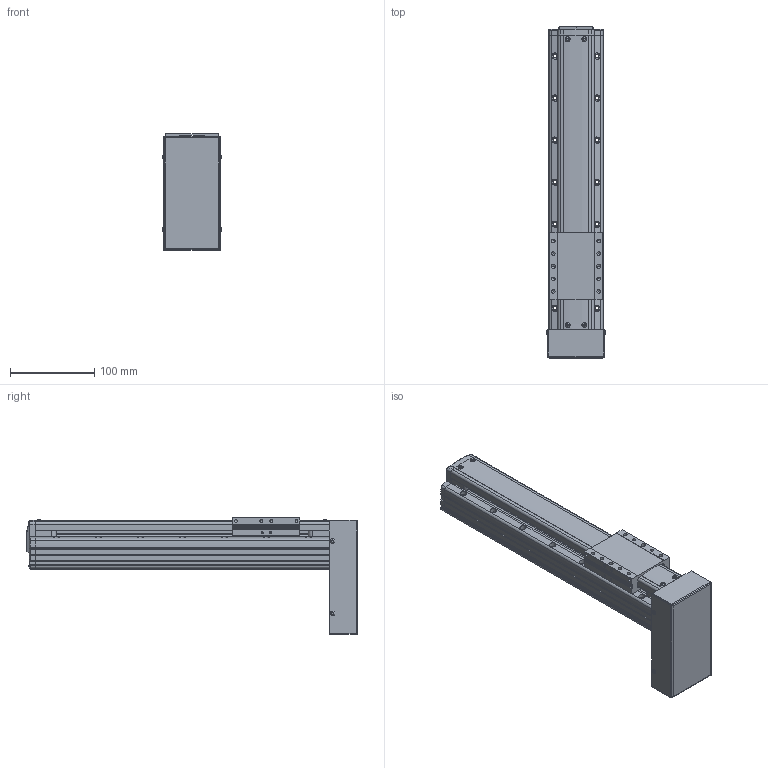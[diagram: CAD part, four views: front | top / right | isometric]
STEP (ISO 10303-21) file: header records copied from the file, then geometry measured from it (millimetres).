
FILE_DESCRIPTION(('STEP AP214'),'1');
FILE_NAME('Z:/Web/3D/PSA65/STP/PSA65-200 (3D)/PSA65ㅁㅁ-200PB.stp','2014-06-25T03:31:30',(' '),(' '),'Spatial InterOp 3D',' ',' ');
FILE_SCHEMA(('automotive_design'));
Length unit declared in the file: millimetre
Products named in the file (49): SLIDE; RRCV-PA060; 1; 2; 3; 4; 5; 6; 7; 8; 9; 10; 11; 12; 13; 14; 15; 16; 17; 18; 19; 20; 21; 22; 23; 24; 25; 26; 27; 28; 29; 30; 31; 스크루 : Round - M3.0 x 8.0; RN8 x 0.75; SHAFT-SAN65; BASE; 스크루 : Round - M3.0 x 6.0; BTCV-SAN65; M3.0 x 6.0
Bounding box: 71.13 x 394.8 x 139 mm (x, y, z)
Volume: 1426767.9 mm3; surface area: 200167.6 mm2
Topology: 49 solids, 49 shells, 1711 faces, 4527 edges, 2890 vertices
Faces by surface type: plane 1034, cylinder 457, cone 155, sphere 30, bspline 19, torus 16
Entity records: 67956 total; most frequent: CARTESIAN_POINT 10770, DIRECTION 9002, ORIENTED_EDGE 8842, EDGE_CURVE 4421, LINE 3158, VECTOR 3158, AXIS2_PLACEMENT_3D 2922, VERTEX_POINT 2890
